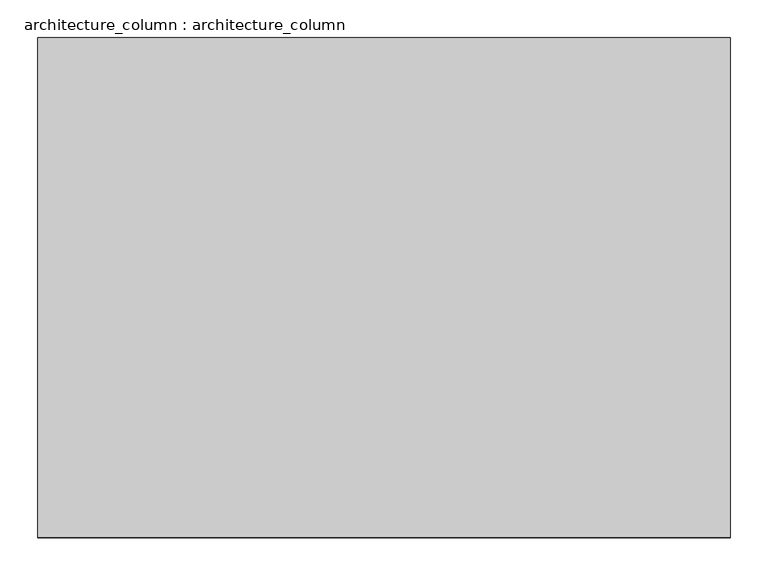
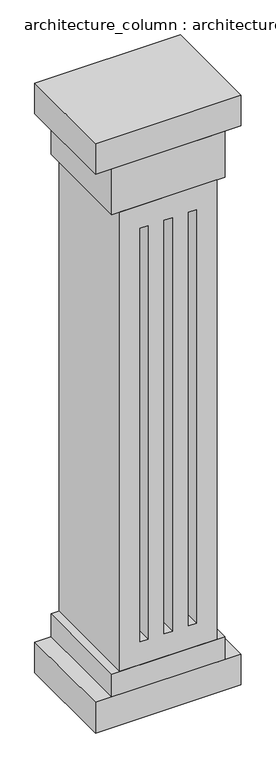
"""IFC4 building model written with IfcOpenShell, lengths in millimetres: proxy geometry, architecture_column : architecture_column."""

from ifc_helpers import new_model, si_unit, frame, origin, origin_with_axes, place, context, project, spatial, polyline, outline, extrude, faceted_brep, source, transform, mapped, element, save


def architecture_column_architecture_column_fcfab19c(model_context):
    return source(origin(), model_context, "Body", "SolidModel", [
        faceted_brep([(304.8, -3048.0, 3403.6), (-304.8, -3048.0, 3403.6), (-304.8, -3048.0, 355.6), (304.8, -3048.0, 355.6), (-177.8, -3048.0, 508.0), (-177.8, -3048.0, 3251.2), (-127.0, -3048.0, 3251.2), (-127.0, -3048.0, 508.0), (-25.4, -3048.0, 508.0), (-25.4, -3048.0, 3251.2), (25.4, -3048.0, 3251.2), (25.4, -3048.0, 508.0), (127.0, -3048.0, 508.0), (127.0, -3048.0, 3251.2), (177.8, -3048.0, 3251.2), (177.8, -3048.0, 508.0), (304.8, -2387.6, 3403.6), (304.8, -2387.6, 355.6), (-304.8, -2387.6, 355.6), (-304.8, -2387.6, 3403.6), (-177.8, -2895.6, 3251.2), (-177.8, -2895.6, 508.0), (-127.0, -2895.6, 508.0), (-127.0, -2895.6, 3251.2), (-25.4, -2895.6, 3251.2), (-25.4, -2895.6, 508.0), (25.4, -2895.6, 508.0), (25.4, -2895.6, 3251.2), (127.0, -2895.6, 3251.2), (127.0, -2895.6, 508.0), (177.8, -2895.6, 508.0), (177.8, -2895.6, 3251.2)], [[[0, 1, 2, 3], [4, 5, 6, 7], [8, 9, 10, 11], [12, 13, 14, 15]], [[16, 17, 18, 19]], [[1, 0, 16, 19]], [[2, 1, 19, 18]], [[3, 2, 18, 17]], [[0, 3, 17, 16]], [[20, 21, 22, 23]], [[24, 25, 26, 27]], [[28, 29, 30, 31]], [[21, 20, 5, 4]], [[22, 21, 4, 7]], [[23, 22, 7, 6]], [[20, 23, 6, 5]], [[25, 24, 9, 8]], [[26, 25, 8, 11]], [[27, 26, 11, 10]], [[24, 27, 10, 9]], [[29, 28, 13, 12]], [[30, 29, 12, 15]], [[31, 30, 15, 14]], [[28, 31, 14, 13]]]),
        extrude(outline(polyline([(457.2, -3048.0), (-457.2, -3048.0), (-457.2, -2387.6), (457.2, -2387.6), (457.2, -3048.0)])), frame((0.0, 0.0, 3708.4), z_axis=(0.0, 0.0, 1.0), x_axis=(1.0, 0.0, 0.0)), (0.0, 0.0, 1.0), 203.2),
        extrude(outline(polyline([(355.6, -3048.0), (-355.6, -3048.0), (-355.6, -2387.6), (355.6, -2387.6), (355.6, -3048.0)])), frame((0.0, 0.0, 3403.6), z_axis=(0.0, 0.0, 1.0), x_axis=(1.0, 0.0, 0.0)), (0.0, 0.0, 1.0), 304.8),
        extrude(outline(polyline([(457.2, -3048.0), (-457.2, -3048.0), (-457.2, -2387.6), (457.2, -2387.6), (457.2, -3048.0)])), origin_with_axes(), (0.0, 0.0, 1.0), 203.2),
        extrude(outline(polyline([(355.6, -3048.0), (-355.6, -3048.0), (-355.6, -2387.6), (355.6, -2387.6), (355.6, -3048.0)])), frame((0.0, 0.0, 203.2), z_axis=(0.0, 0.0, 1.0), x_axis=(1.0, 0.0, 0.0)), (0.0, 0.0, 1.0), 152.4),
    ])


if __name__ == "__main__":
    model = new_model("IFC4")
    model_context = context("Model", 3, world=origin())
    ifc_project = project(units=[si_unit("LENGTHUNIT", "METRE", prefix="MILLI")], contexts=[model_context])
    site = spatial("IfcSite", under=ifc_project)
    building = spatial("IfcBuilding", under=site)
    placement = place(None, origin())
    architecture_column_architecture_column_shape = architecture_column_architecture_column_fcfab19c(model_context)
    element("IfcBuildingElementProxy", 1, Name="architecture_column : architecture_column", ObjectType="architecture_column : architecture_column", at=placement, inside=building, context=model_context, shape_type="MappedRepresentation", body=[
        mapped(architecture_column_architecture_column_shape, transform((0.0, 0.0, 0.0), x_axis=(1.0, 0.0, 0.0), y_axis=(0.0, 1.0, 0.0), z_axis=(0.0, 0.0, 1.0))),
    ])
    save(model, "model.ifc")
